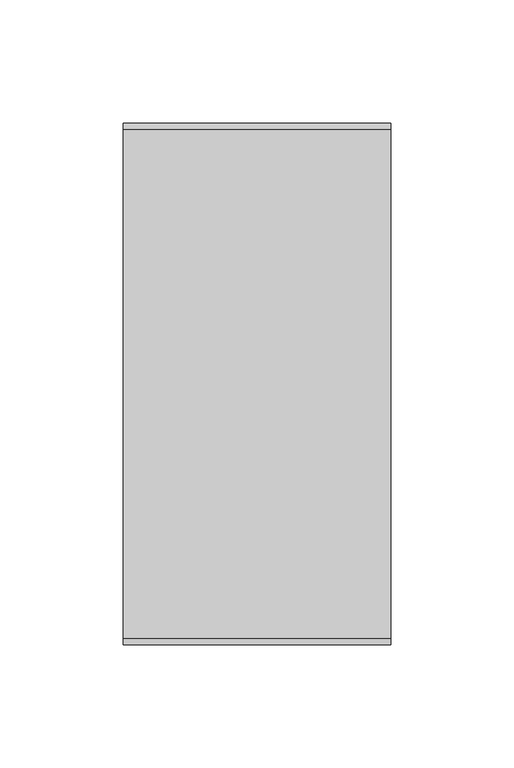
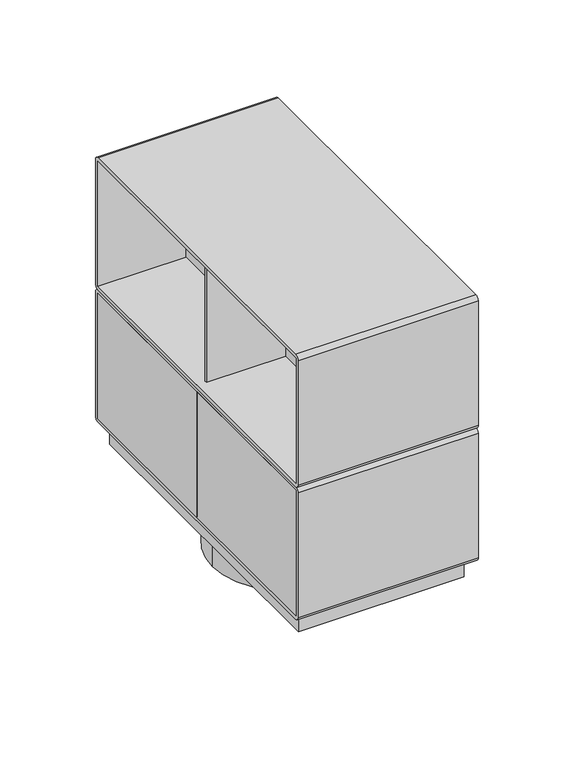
"""IFC4 building model written with IfcOpenShell, lengths in millimetres: proxy geometry, Electrical_Installation_Hager_VE-EE_Pedestal-box-8 : GB pedestal box 8 inst. fields iron gray."""

from ifc_helpers import new_model, si_unit, point, frame, frame_2d, origin, origin_with_axes, origin_2d, place, context, project, spatial, polyline, circle_curve, trimmed, segment, composite_curve, outline, extrude, source, transform, mapped, element, save


def electrical_fixtures_dd45cec8(model_context):
    return source(origin(), model_context, "Body", "SweptSolid", [
        extrude(outline(polyline([(1.25, -0.764292), (1.25, 0.764292), (48.9, 0.764292), (48.9, -0.764292), (1.25, -0.764292)])), frame((0.0, 0.0, 99.3), z_axis=(0.0, 0.0, 1.0), x_axis=(1.0, 0.0, 0.0)), (0.0, 0.0, 1.0), 79.9),
        extrude(outline(polyline([(-1.25, 0.764292), (-1.25, -0.764292), (-48.9, -0.764292), (-48.9, 0.764292), (-1.25, 0.764292)])), frame((0.0, 0.0, 99.3), z_axis=(0.0, 0.0, 1.0), x_axis=(1.0, 0.0, 0.0)), (0.0, 0.0, 1.0), 79.9),
        extrude(outline(composite_curve([segment(polyline([(-103.5, 181.5), (103.5, 181.5)]), True, "CONTINUOUS"), segment(trimmed(circle_curve(frame_2d((103.5, 179.0)), 2.5), [point((103.5, 181.5))], [point((106.0, 179.0))], False, "CARTESIAN"), True, "CONTINUOUS"), segment(polyline([(106.0, 179.0), (106.0, 99.5)]), True, "CONTINUOUS"), segment(trimmed(circle_curve(frame_2d((103.5, 99.5)), 2.5), [point((106.0, 99.5))], [point((103.5, 97.0))], False, "CARTESIAN"), True, "CONTINUOUS"), segment(polyline([(103.5, 97.0), (-103.5, 97.0)]), True, "CONTINUOUS"), segment(trimmed(circle_curve(frame_2d((-103.5, 99.5)), 2.5), [point((-103.5, 97.0))], [point((-106.0, 99.5))], False, "CARTESIAN"), True, "CONTINUOUS"), segment(polyline([(-106.0, 99.5), (-106.0, 179.0)]), True, "CONTINUOUS"), segment(trimmed(circle_curve(frame_2d((-103.5, 179.0)), 2.5), [point((-106.0, 179.0))], [point((-103.5, 181.5))], False, "CARTESIAN"), True, "CONTINUOUS")], self_intersect=False), holes=[polyline([(-103.7, 179.2), (-103.7, 99.3), (103.7, 99.3), (103.7, 179.2), (-103.7, 179.2)])]), frame((-54.4, 0.0, 0.0), z_axis=(1.0, 0.0, 0.0), x_axis=(0.0, 1.0, 0.0)), (0.0, 0.0, 1.0), 108.8),
        extrude(outline(polyline([(1.25, 103.7), (1.25, -103.7), (-1.25, -103.7), (-1.25, 103.7), (1.25, 103.7)])), frame((0.0, 0.0, 99.3), z_axis=(0.0, 0.0, 1.0), x_axis=(1.0, 0.0, 0.0)), (0.0, 0.0, 1.0), 79.9),
        extrude(outline(polyline([(1.25, -0.764292), (1.25, 0.764292), (48.9, 0.764292), (48.9, -0.764292), (1.25, -0.764292)])), frame((0.0, 0.0, 14.8), z_axis=(0.0, 0.0, 1.0), x_axis=(1.0, 0.0, 0.0)), (0.0, 0.0, 1.0), 79.9),
        extrude(outline(polyline([(-1.25, 0.764292), (-1.25, -0.764292), (-48.9, -0.764292), (-48.9, 0.764292), (-1.25, 0.764292)])), frame((0.0, 0.0, 14.8), z_axis=(0.0, 0.0, 1.0), x_axis=(1.0, 0.0, 0.0)), (0.0, 0.0, 1.0), 79.9),
        extrude(outline(polyline([(-54.4, 0.0), (-54.4, 103.7), (-48.9, 103.7), (-48.9, 0.0), (-54.4, 0.0)])), frame((0.0, 0.0, 14.8), z_axis=(0.0, 0.0, 1.0), x_axis=(1.0, 0.0, 0.0)), (0.0, 0.0, 1.0), 79.9),
        extrude(outline(polyline([(-54.4, -103.7), (-54.4, 0.0), (-48.9, 0.0), (-48.9, -103.7), (-54.4, -103.7)])), frame((0.0, 0.0, 14.8), z_axis=(0.0, 0.0, 1.0), x_axis=(1.0, 0.0, 0.0)), (0.0, 0.0, 1.0), 79.9),
        extrude(outline(polyline([(54.4, 103.7), (54.4, 0.0), (48.9, 0.0), (48.9, 103.7), (54.4, 103.7)])), frame((0.0, 0.0, 14.8), z_axis=(0.0, 0.0, 1.0), x_axis=(1.0, 0.0, 0.0)), (0.0, 0.0, 1.0), 79.9),
        extrude(outline(composite_curve([segment(polyline([(-103.5, 97.0), (103.5, 97.0)]), True, "CONTINUOUS"), segment(trimmed(circle_curve(frame_2d((103.5, 94.5)), 2.5), [point((103.5, 97.0))], [point((106.0, 94.5))], False, "CARTESIAN"), True, "CONTINUOUS"), segment(polyline([(106.0, 94.5), (106.0, 15.0)]), True, "CONTINUOUS"), segment(trimmed(circle_curve(frame_2d((103.5, 15.0)), 2.5), [point((106.0, 15.0))], [point((103.5, 12.5))], False, "CARTESIAN"), True, "CONTINUOUS"), segment(polyline([(103.5, 12.5), (-103.5, 12.5)]), True, "CONTINUOUS"), segment(trimmed(circle_curve(frame_2d((-103.5, 15.0)), 2.5), [point((-103.5, 12.5))], [point((-106.0, 15.0))], False, "CARTESIAN"), True, "CONTINUOUS"), segment(polyline([(-106.0, 15.0), (-106.0, 94.5)]), True, "CONTINUOUS"), segment(trimmed(circle_curve(frame_2d((-103.5, 94.5)), 2.5), [point((-106.0, 94.5))], [point((-103.5, 97.0))], False, "CARTESIAN"), True, "CONTINUOUS")], self_intersect=False), holes=[polyline([(-103.7, 94.7), (-103.7, 14.8), (103.7, 14.8), (103.7, 94.7), (-103.7, 94.7)])]), frame((-54.4, 0.0, 0.0), z_axis=(1.0, 0.0, 0.0), x_axis=(0.0, 1.0, 0.0)), (0.0, 0.0, 1.0), 108.8),
        extrude(outline(polyline([(54.4, 0.0), (54.4, -103.7), (48.9, -103.7), (48.9, 0.0), (54.4, 0.0)])), frame((0.0, 0.0, 14.8), z_axis=(0.0, 0.0, 1.0), x_axis=(1.0, 0.0, 0.0)), (0.0, 0.0, 1.0), 79.9),
        extrude(outline(composite_curve([segment(trimmed(circle_curve(origin_2d(), 45.0), [point((-45.0, 0.0))], [point((45.0, 0.0))], False, "CARTESIAN"), True, "CONTINUOUS"), segment(trimmed(circle_curve(origin_2d(), 45.0), [point((45.0, 0.0))], [point((-45.0, 0.0))], False, "CARTESIAN"), True, "CONTINUOUS")], self_intersect=False), holes=[composite_curve([segment(trimmed(circle_curve(origin_2d(), 27.5), [point((-27.5, 0.0))], [point((27.5, 0.0))], True, "CARTESIAN"), True, "CONTINUOUS"), segment(trimmed(circle_curve(origin_2d(), 27.5), [point((27.5, 0.0))], [point((-27.5, 0.0))], True, "CARTESIAN"), True, "CONTINUOUS")], self_intersect=False)]), frame((0.0, 0.0, -20.0), z_axis=(0.0, 0.0, 1.0), x_axis=(1.0, 0.0, 0.0)), (0.0, 0.0, 1.0), 20.0),
        extrude(outline(polyline([(1.25, 103.7), (1.25, -103.7), (-1.25, -103.7), (-1.25, 103.7), (1.25, 103.7)])), frame((0.0, 0.0, 14.8), z_axis=(0.0, 0.0, 1.0), x_axis=(1.0, 0.0, 0.0)), (0.0, 0.0, 1.0), 79.9),
        extrude(outline(polyline([(50.0, -98.7), (-50.0, -98.7), (-50.0, 98.7), (50.0, 98.7), (50.0, -98.7)]), holes=[composite_curve([segment(trimmed(circle_curve(frame_2d((-28.5912964, 0.7333267)), 5.0), [point((-24.4955362, 3.6012089))], [point((-25.7234143, -3.3624335))], False, "CARTESIAN"), True, "CONTINUOUS"), segment(polyline([(-25.7234143, -3.3624335), (-34.1678222, -9.2752716)]), True, "CONTINUOUS"), segment(trimmed(circle_curve(frame_2d((-31.29994, -13.3710318)), 5.0), [point((-34.1678222, -9.2752716))], [point((-35.8979613, -15.335262))], True, "CARTESIAN"), True, "CONTINUOUS"), segment(trimmed(circle_curve(origin_2d(), 39.0363149), [point((-35.8979613, -15.335262))], [point((-26.6882584, -28.4880808))], True, "CARTESIAN"), True, "CONTINUOUS"), segment(trimmed(circle_curve(frame_2d((-23.2698699, -24.8391604)), 5.0), [point((-26.6882584, -28.4880808))], [point((-20.4019877, -28.9349206))], True, "CARTESIAN"), True, "CONTINUOUS"), segment(polyline([(-20.4019877, -28.9349206), (-11.9575798, -23.0220826)]), True, "CONTINUOUS"), segment(trimmed(circle_curve(frame_2d((-9.0896976, -27.1178428)), 5.0), [point((-11.9575798, -23.0220826))], [point((-4.9939374, -24.2499606))], False, "CARTESIAN"), True, "CONTINUOUS"), segment(polyline([(-4.9939374, -24.2499606), (3.2975997, -36.0915028)]), True, "CONTINUOUS"), segment(trimmed(circle_curve(frame_2d((7.3933599, -33.2236206)), 5.0), [point((3.2975997, -36.0915028))], [point((8.4794587, -38.1042342))], True, "CARTESIAN"), True, "CONTINUOUS"), segment(trimmed(circle_curve(origin_2d(), 39.0363149), [point((8.4794587, -38.1042342))], [point((32.906122, -21.0005004))], True, "CARTESIAN"), True, "CONTINUOUS"), segment(trimmed(circle_curve(frame_2d((28.6913131, -18.3106332)), 5.0), [point((32.906122, -21.0005004))], [point((32.7870733, -15.442751))], True, "CARTESIAN"), True, "CONTINUOUS"), segment(polyline([(32.7870733, -15.442751), (24.4955362, -3.6012089)]), True, "CONTINUOUS"), segment(trimmed(circle_curve(frame_2d((28.5912964, -0.7333267)), 5.0), [point((24.4955362, -3.6012089))], [point((25.7234143, 3.3624335))], False, "CARTESIAN"), True, "CONTINUOUS"), segment(polyline([(25.7234143, 3.3624335), (34.1678222, 9.2752716)]), True, "CONTINUOUS"), segment(trimmed(circle_curve(frame_2d((31.29994, 13.3710318)), 5.0), [point((34.1678222, 9.2752716))], [point((35.8979613, 15.335262))], True, "CARTESIAN"), True, "CONTINUOUS"), segment(trimmed(circle_curve(origin_2d(), 39.0363149), [point((35.8979613, 15.335262))], [point((26.6882584, 28.4880808))], True, "CARTESIAN"), True, "CONTINUOUS"), segment(trimmed(circle_curve(frame_2d((23.2698699, 24.8391604)), 5.0), [point((26.6882584, 28.4880808))], [point((20.4019877, 28.9349206))], True, "CARTESIAN"), True, "CONTINUOUS"), segment(polyline([(20.4019877, 28.9349206), (11.9575798, 23.0220826)]), True, "CONTINUOUS"), segment(trimmed(circle_curve(frame_2d((9.0896976, 27.1178428)), 5.0), [point((11.9575798, 23.0220826))], [point((4.9939374, 24.2499606))], False, "CARTESIAN"), True, "CONTINUOUS"), segment(polyline([(4.9939374, 24.2499606), (-3.2975997, 36.0915028)]), True, "CONTINUOUS"), segment(trimmed(circle_curve(frame_2d((-7.3933599, 33.2236206)), 5.0), [point((-3.2975997, 36.0915028))], [point((-8.4794587, 38.1042342))], True, "CARTESIAN"), True, "CONTINUOUS"), segment(trimmed(circle_curve(origin_2d(), 39.0363149), [point((-8.4794587, 38.1042342))], [point((-32.906122, 21.0005004))], True, "CARTESIAN"), True, "CONTINUOUS"), segment(trimmed(circle_curve(frame_2d((-28.6913131, 18.3106332)), 5.0), [point((-32.906122, 21.0005004))], [point((-32.7870733, 15.442751))], True, "CARTESIAN"), True, "CONTINUOUS"), segment(polyline([(-32.7870733, 15.442751), (-24.4955362, 3.6012089)]), True, "CONTINUOUS")], self_intersect=False)]), origin_with_axes(), (0.0, 0.0, 1.0), 12.5),
    ])


if __name__ == "__main__":
    model = new_model("IFC4")
    model_context = context("Model", 3, world=origin())
    ifc_project = project(units=[si_unit("LENGTHUNIT", "METRE", prefix="MILLI")], contexts=[model_context])
    site = spatial("IfcSite", under=ifc_project)
    building = spatial("IfcBuilding", under=site)
    placement = place(None, origin())
    electrical_fixtures_shape = electrical_fixtures_dd45cec8(model_context)
    element("IfcBuildingElementProxy", 1, Name="Electrical_Installation_Hager_VE-EE_Pedestal-box-8 : GB pedestal box 8 inst. fields iron gray", ObjectType="Electrical_Installation_Hager_VE-EE_Pedestal-box-8 : GB pedestal box 8 inst. fields iron gray", at=placement, inside=building, context=model_context, shape_type="MappedRepresentation", body=[
        mapped(electrical_fixtures_shape, transform((0.0, 0.0, 0.0), x_axis=(1.0, 0.0, 0.0), y_axis=(0.0, 1.0, 0.0), z_axis=(0.0, 0.0, 1.0))),
    ])
    save(model, "model.ifc")
